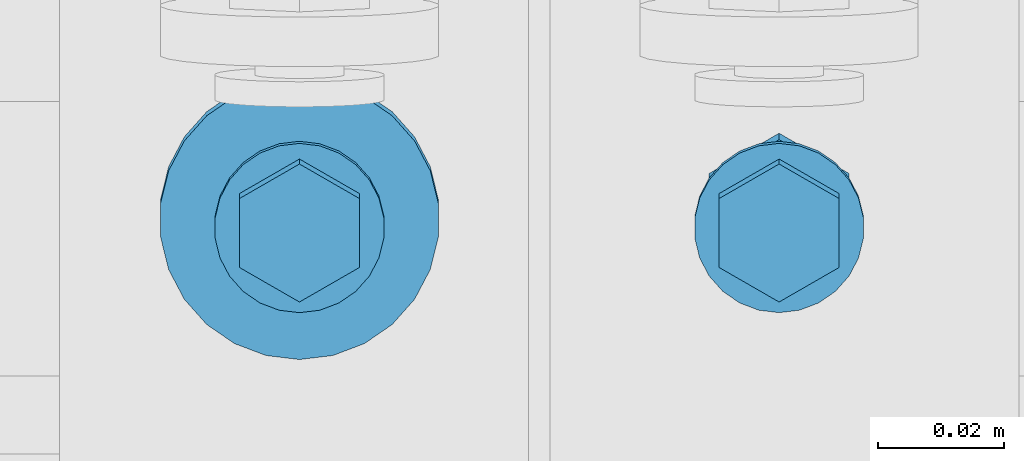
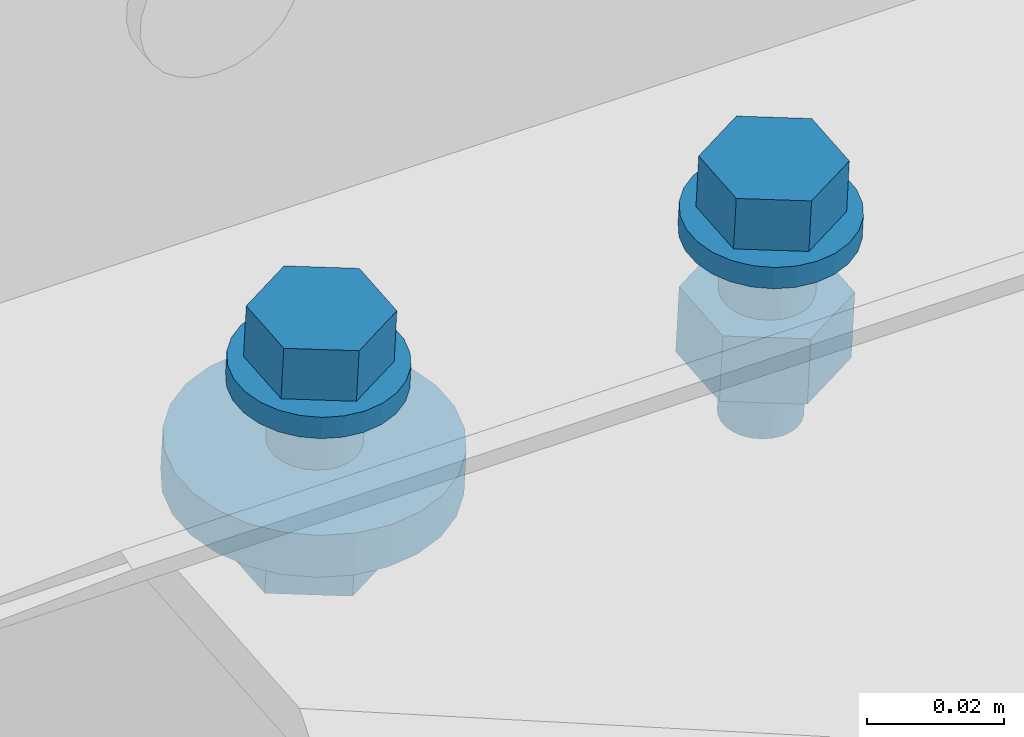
# One storey, part 135 of 185: 2 mechanical fasteners, 1 element without a shape of its own.
"""IFC2X3 building model written with IfcOpenShell, lengths in millimetres."""

from ifc_helpers import new_model, si_unit, frame, origin_with_axes, origin_2d_with_axis, place, context, subcontext, project, spatial, polyline, circle, outline, extrude, source, transform, mapped, material, type_object, element, aggregate, save


model = new_model("IFC2X3")

# Units and contexts
model_context = context("Model", 3, precision=1e-05, world=origin_with_axes())
body_context = subcontext(model_context, "Body", "Model", "MODEL_VIEW")
ifc_project = project(units=[si_unit("LENGTHUNIT", "METRE", prefix="MILLI"), si_unit("AREAUNIT", "SQUARE_METRE"), si_unit("VOLUMEUNIT", "CUBIC_METRE"), si_unit("MASSUNIT", "GRAM", prefix="KILO"), si_unit("TIMEUNIT", "SECOND"), si_unit("PLANEANGLEUNIT", "RADIAN"), si_unit("SOLIDANGLEUNIT", "STERADIAN"), si_unit("THERMODYNAMICTEMPERATUREUNIT", "DEGREE_CELSIUS"), si_unit("LUMINOUSINTENSITYUNIT", "LUMEN")], contexts=[model_context])

# Site, building, storey
site_placement = place(None, origin_with_axes())
site = spatial("IfcSite", under=ifc_project, at=site_placement, Name="Undefined", CompositionType="ELEMENT")
building_placement = place(site_placement, origin_with_axes())
building = spatial("IfcBuilding", under=site, at=building_placement, Name="Undefined", CompositionType="ELEMENT")
storey_placement = place(building_placement, origin_with_axes())
storey = spatial("IfcBuildingStorey", under=building, at=storey_placement, Name="Undefined", CompositionType="ELEMENT", Elevation=0.0)

# Assembly, mechanical fasteners
assembly_placement = place(storey_placement, origin_with_axes())
assembly = element("IfcElementAssembly", 1, at=assembly_placement, inside=storey, Name="Steel Assembly", AssemblyPlace="NOTDEFINED", PredefinedType="RIGID_FRAME")
ifc_material = material(Name="Undefined")
discrete_accessory_type = type_object("IfcDiscreteAccessoryType", Name="Bolt assembly")
shared_shape_1 = source(origin_with_axes(), body_context, "Body", "SweptSolid", [
    extrude(circle(Radius=7.14374971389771, at=origin_2d_with_axis()), frame((0.0, -0.0238014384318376, 0.0), z_axis=(0.0, 1.0, 0.0), x_axis=(1.0, 0.0, 0.0)), (0.0, 0.0, 1.0), 8.0),
    extrude(circle(Radius=7.14374971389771, at=origin_2d_with_axis()), frame((0.0, -3.08000006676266, 0.0), z_axis=(0.0, 1.0, 0.0), x_axis=(1.0, 0.0, 0.0)), (0.0, 0.0, 1.0), 3.2),
    extrude(circle(Radius=7.14374971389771, at=origin_2d_with_axis()), frame((0.0, -3.08000006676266, 0.0), z_axis=(0.0, 1.0, 0.0), x_axis=(1.0, 0.0, 0.0)), (0.0, 0.0, 1.0), 3.2),
    extrude(outline(polyline([(10.9985221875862, 0.0), (5.4992610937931, 9.52499961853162), (-5.4992610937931, 9.52499961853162), (-10.9985221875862, 0.0), (-5.4992610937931, -9.52499961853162), (5.4992610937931, -9.52499961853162), (10.9985221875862, 0.0)])), frame((0.0, -16.6737496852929, 0.0), z_axis=(0.0, 1.0, 0.0), x_axis=(1.0, 0.0, 0.0)), (0.0, 0.0, 1.0), 9.5),
    extrude(circle(Radius=6.34999990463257, at=origin_2d_with_axis()), frame((0.0, -7.14875006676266, 0.0), z_axis=(0.0, 1.0, 0.0), x_axis=(1.0, 0.0, 0.0)), (0.0, 0.0, 1.0), 38.1),
    extrude(circle(Radius=13.4937496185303, at=origin_2d_with_axis()), frame((0.0, -7.14875006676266, 0.0), z_axis=(0.0, 1.0, 0.0), x_axis=(1.0, 0.0, 0.0)), (0.0, 0.0, 1.0), 4.0),
    extrude(circle(Radius=22.2250003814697, at=origin_2d_with_axis()), frame((0.0, 7.95019856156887, 0.0), z_axis=(0.0, 1.0, 0.0), x_axis=(1.0, 0.0, 0.0)), (0.0, 0.0, 1.0), 7.9),
    extrude(outline(polyline([(12.8316099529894, 0.0), (6.4158049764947, 11.1125001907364), (-6.4158049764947, 11.1125001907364), (-12.8316099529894, 0.0), (-6.4158049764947, -11.1125001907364), (6.4158049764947, -11.1125001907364), (12.8316099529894, 0.0)])), frame((0.0, 15.8876985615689, 0.0), z_axis=(0.0, 1.0, 0.0), x_axis=(1.0, 0.0, 0.0)), (0.0, 0.0, 1.0), 12.3),
])
mechanical_fastener_1_placement = place(assembly_placement, frame((22440.9, 8083.48104764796, 6565.71908714), z_axis=(1.0, 0.0, 0.0), x_axis=(0.0, -0.996545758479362, -0.0830454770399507)))
mechanical_fastener_1 = element("IfcMechanicalFastener", 2, at=mechanical_fastener_1_placement, type_object=discrete_accessory_type, material=ifc_material, Name="Bolt assembly", NominalDiameter=12.6999998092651, NominalLength=38.0999984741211, context=body_context, shape_type="MappedRepresentation", body=[
    mapped(shared_shape_1, transform((0.0, 0.0, 0.0))),
])
shared_shape_2 = source(origin_with_axes(), body_context, "Body", "SweptSolid", [
    extrude(circle(Radius=7.14374971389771, at=origin_2d_with_axis()), frame((0.0, -0.0238014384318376, 0.0), z_axis=(0.0, 1.0, 0.0), x_axis=(1.0, 0.0, 0.0)), (0.0, 0.0, 1.0), 8.0),
    extrude(circle(Radius=7.14374971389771, at=origin_2d_with_axis()), frame((0.0, -3.08000006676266, 0.0), z_axis=(0.0, 1.0, 0.0), x_axis=(1.0, 0.0, 0.0)), (0.0, 0.0, 1.0), 3.2),
    extrude(circle(Radius=7.14374971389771, at=origin_2d_with_axis()), frame((0.0, -3.08000006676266, 0.0), z_axis=(0.0, 1.0, 0.0), x_axis=(1.0, 0.0, 0.0)), (0.0, 0.0, 1.0), 3.2),
    extrude(outline(polyline([(10.9985221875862, 0.0), (5.4992610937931, 9.52499961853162), (-5.4992610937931, 9.52499961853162), (-10.9985221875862, 0.0), (-5.4992610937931, -9.52499961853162), (5.4992610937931, -9.52499961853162), (10.9985221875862, 0.0)])), frame((0.0, -16.6737496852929, 0.0), z_axis=(0.0, 1.0, 0.0), x_axis=(1.0, 0.0, 0.0)), (0.0, 0.0, 1.0), 9.5),
    extrude(circle(Radius=6.34999990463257, at=origin_2d_with_axis()), frame((0.0, -7.14875006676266, 0.0), z_axis=(0.0, 1.0, 0.0), x_axis=(1.0, 0.0, 0.0)), (0.0, 0.0, 1.0), 38.1),
    extrude(circle(Radius=13.4937496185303, at=origin_2d_with_axis()), frame((0.0, -7.14875006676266, 0.0), z_axis=(0.0, 1.0, 0.0), x_axis=(1.0, 0.0, 0.0)), (0.0, 0.0, 1.0), 4.0),
    extrude(outline(polyline([(12.8316099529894, 0.0), (6.4158049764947, 11.1125001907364), (-6.4158049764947, 11.1125001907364), (-12.8316099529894, 0.0), (-6.4158049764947, -11.1125001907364), (6.4158049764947, -11.1125001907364), (12.8316099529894, 0.0)])), frame((0.0, 7.95019856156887, 0.0), z_axis=(0.0, 1.0, 0.0), x_axis=(1.0, 0.0, 0.0)), (0.0, 0.0, 1.0), 12.3),
])
mechanical_fastener_2_placement = place(assembly_placement, frame((22517.1, 8083.48104764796, 6565.71908714), z_axis=(1.0, 0.0, 0.0), x_axis=(0.0, -0.996545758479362, -0.0830454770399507)))
mechanical_fastener_2 = element("IfcMechanicalFastener", 3, at=mechanical_fastener_2_placement, type_object=discrete_accessory_type, material=ifc_material, Name="Bolt assembly", NominalDiameter=12.6999998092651, NominalLength=38.0999984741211, context=body_context, shape_type="MappedRepresentation", body=[
    mapped(shared_shape_2, transform((0.0, 0.0, 0.0))),
])
aggregate(assembly, [mechanical_fastener_1, mechanical_fastener_2])

save(model, "model.ifc")
